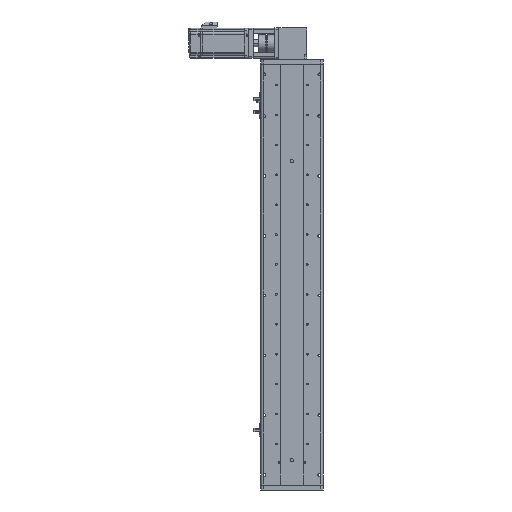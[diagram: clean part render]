
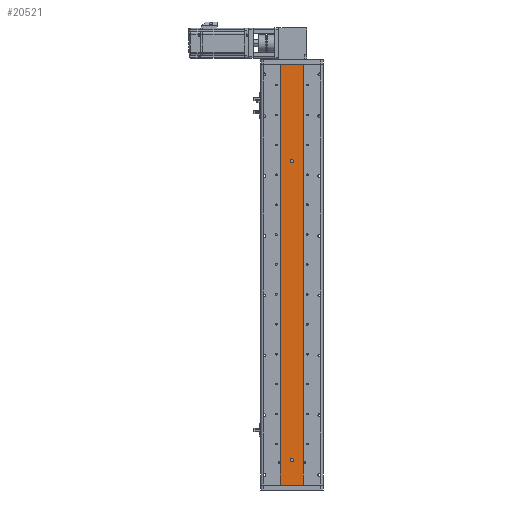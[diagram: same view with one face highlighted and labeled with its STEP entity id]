
A CAD part, front view. The second image highlights one B-rep face of the part: STEP entity #20521.
In plain terms, the highlighted planar face has unit normal (0, -1, 0).
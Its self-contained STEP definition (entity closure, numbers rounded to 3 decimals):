
#27 = CIRCLE ( 'NONE', #24162, 3. ) ;
#189 = LINE ( 'NONE', #58885, #34838 ) ;
#1079 = CARTESIAN_POINT ( 'NONE',  ( -23., 1., 422.001 ) ) ;
#2131 = CARTESIAN_POINT ( 'NONE',  ( 23., 1., -422. ) ) ;
#2880 = ORIENTED_EDGE ( 'NONE', *, *, #12070, .T. ) ;
#4635 = DIRECTION ( 'NONE',  ( 0., 0., -1. ) ) ;
#4668 = PLANE ( 'NONE',  #16289 ) ;
#5323 = ORIENTED_EDGE ( 'NONE', *, *, #59723, .F. ) ;
#6680 = LINE ( 'NONE', #11175, #39834 ) ;
#6693 = EDGE_CURVE ( 'NONE', #13270, #16429, #6680, .T. ) ;
#6894 = ORIENTED_EDGE ( 'NONE', *, *, #57684, .F. ) ;
#9260 = VERTEX_POINT ( 'NONE', #58267 ) ;
#10047 = CARTESIAN_POINT ( 'NONE',  ( 0., 1., 231. ) ) ;
#11175 = CARTESIAN_POINT ( 'NONE',  ( 23., 1., -422. ) ) ;
#12070 = EDGE_CURVE ( 'NONE', #9260, #13270, #32220, .T. ) ;
#13270 = VERTEX_POINT ( 'NONE', #20946 ) ;
#13477 = VERTEX_POINT ( 'NONE', #17103 ) ;
#13722 = CIRCLE ( 'NONE', #54010, 3. ) ;
#14135 = DIRECTION ( 'NONE',  ( 0., 1., 0. ) ) ;
#15217 = EDGE_CURVE ( 'NONE', #24016, #16429, #46747, .T. ) ;
#15265 = CARTESIAN_POINT ( 'NONE',  ( 0., 1., -372. ) ) ;
#15266 = EDGE_CURVE ( 'NONE', #13477, #47522, #58984, .T. ) ;
#16289 = AXIS2_PLACEMENT_3D ( 'NONE', #37686, #14135, #47075 ) ;
#16429 = VERTEX_POINT ( 'NONE', #2131 ) ;
#16521 = DIRECTION ( 'NONE',  ( 1., 0., 0. ) ) ;
#17103 = CARTESIAN_POINT ( 'NONE',  ( 0., 1., 225. ) ) ;
#18305 = ORIENTED_EDGE ( 'NONE', *, *, #15217, .F. ) ;
#18772 = CARTESIAN_POINT ( 'NONE',  ( 0., 1., -375. ) ) ;
#19994 = DIRECTION ( 'NONE',  ( 0., 0., -1. ) ) ;
#20313 = CARTESIAN_POINT ( 'NONE',  ( 0., 1., -369. ) ) ;
#20521 = ADVANCED_FACE ( 'NONE', ( #33621, #58578, #21031 ), #4668, .F. ) ;
#20946 = CARTESIAN_POINT ( 'NONE',  ( -23., 1., -422. ) ) ;
#20950 = CARTESIAN_POINT ( 'NONE',  ( 23., 1., 422. ) ) ;
#21031 = FACE_OUTER_BOUND ( 'NONE', #33949, .T. ) ;
#22749 = DIRECTION ( 'NONE',  ( 0., -1., 0. ) ) ;
#23093 = AXIS2_PLACEMENT_3D ( 'NONE', #54631, #26433, #59315 ) ;
#24016 = VERTEX_POINT ( 'NONE', #20950 ) ;
#24162 = AXIS2_PLACEMENT_3D ( 'NONE', #50965, #22749, #55719 ) ;
#24738 = ORIENTED_EDGE ( 'NONE', *, *, #28209, .F. ) ;
#24928 = VERTEX_POINT ( 'NONE', #18772 ) ;
#25119 = EDGE_LOOP ( 'NONE', ( #33845, #5323 ) ) ;
#25218 = DIRECTION ( 'NONE',  ( 1., 0., 0. ) ) ;
#26433 = DIRECTION ( 'NONE',  ( 0., -1., 0. ) ) ;
#27458 = ORIENTED_EDGE ( 'NONE', *, *, #6693, .T. ) ;
#28209 = EDGE_CURVE ( 'NONE', #51415, #24928, #53399, .T. ) ;
#31821 = DIRECTION ( 'NONE',  ( 0., 0., -1. ) ) ;
#32220 = LINE ( 'NONE', #1079, #55767 ) ;
#32871 = DIRECTION ( 'NONE',  ( 0., -1., 0. ) ) ;
#33621 = FACE_BOUND ( 'NONE', #25119, .T. ) ;
#33845 = ORIENTED_EDGE ( 'NONE', *, *, #15266, .F. ) ;
#33949 = EDGE_LOOP ( 'NONE', ( #2880, #27458, #18305, #43001 ) ) ;
#34263 = VECTOR ( 'NONE', #31821, 1000. ) ;
#34838 = VECTOR ( 'NONE', #16521, 1000. ) ;
#36369 = CARTESIAN_POINT ( 'NONE',  ( 23., 1., 422.001 ) ) ;
#37686 = CARTESIAN_POINT ( 'NONE',  ( 23., 1., 422.001 ) ) ;
#38771 = DIRECTION ( 'NONE',  ( 0., 0., -1. ) ) ;
#39648 = AXIS2_PLACEMENT_3D ( 'NONE', #15265, #48232, #19994 ) ;
#39834 = VECTOR ( 'NONE', #25218, 1000. ) ;
#41275 = EDGE_LOOP ( 'NONE', ( #6894, #24738 ) ) ;
#43001 = ORIENTED_EDGE ( 'NONE', *, *, #52088, .F. ) ;
#46747 = LINE ( 'NONE', #36369, #34263 ) ;
#47075 = DIRECTION ( 'NONE',  ( 0., 0., 1. ) ) ;
#47522 = VERTEX_POINT ( 'NONE', #10047 ) ;
#48232 = DIRECTION ( 'NONE',  ( 0., -1., 0. ) ) ;
#50965 = CARTESIAN_POINT ( 'NONE',  ( 0., 1., 228. ) ) ;
#51415 = VERTEX_POINT ( 'NONE', #20313 ) ;
#52088 = EDGE_CURVE ( 'NONE', #9260, #24016, #189, .T. ) ;
#53399 = CIRCLE ( 'NONE', #39648, 3. ) ;
#54010 = AXIS2_PLACEMENT_3D ( 'NONE', #61004, #32871, #4635 ) ;
#54631 = CARTESIAN_POINT ( 'NONE',  ( 0., 1., 228. ) ) ;
#55719 = DIRECTION ( 'NONE',  ( 0., 0., -1. ) ) ;
#55767 = VECTOR ( 'NONE', #38771, 1000. ) ;
#57684 = EDGE_CURVE ( 'NONE', #24928, #51415, #13722, .T. ) ;
#58267 = CARTESIAN_POINT ( 'NONE',  ( -23., 1., 422. ) ) ;
#58578 = FACE_BOUND ( 'NONE', #41275, .T. ) ;
#58885 = CARTESIAN_POINT ( 'NONE',  ( 23., 1., 422. ) ) ;
#58984 = CIRCLE ( 'NONE', #23093, 3. ) ;
#59315 = DIRECTION ( 'NONE',  ( 0., 0., -1. ) ) ;
#59723 = EDGE_CURVE ( 'NONE', #47522, #13477, #27, .T. ) ;
#61004 = CARTESIAN_POINT ( 'NONE',  ( 0., 1., -372. ) ) ;
